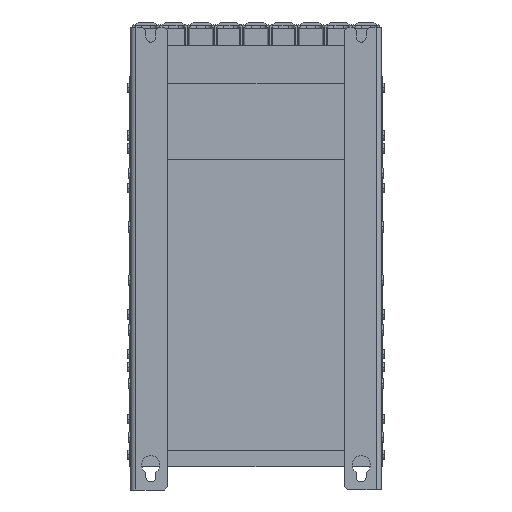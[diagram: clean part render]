
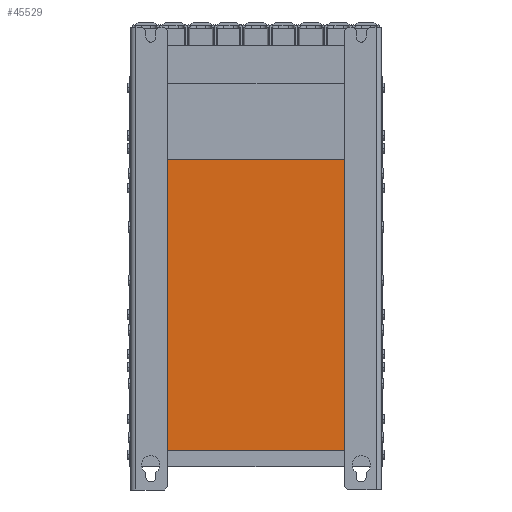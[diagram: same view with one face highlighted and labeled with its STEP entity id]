
A CAD part, front view. The second image highlights one B-rep face of the part: STEP entity #45529.
In plain terms, the highlighted planar face has unit normal (0, -1, 0).
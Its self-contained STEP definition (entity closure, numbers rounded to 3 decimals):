
#1677 = VERTEX_POINT ( 'NONE', #33840 ) ;
#1937 = EDGE_CURVE ( 'NONE', #1677, #12521, #11347, .T. ) ;
#3342 = CARTESIAN_POINT ( 'NONE',  ( 160.464, -126.5, 17. ) ) ;
#9501 = CARTESIAN_POINT ( 'NONE',  ( 160.464, -126.5, 397. ) ) ;
#11347 = LINE ( 'NONE', #19801, #14878 ) ;
#11592 = ORIENTED_EDGE ( 'NONE', *, *, #89215, .F. ) ;
#12521 = VERTEX_POINT ( 'NONE', #99148 ) ;
#14509 = DIRECTION ( 'NONE',  ( 0., -1., 0. ) ) ;
#14878 = VECTOR ( 'NONE', #91567, 1000. ) ;
#18179 = EDGE_CURVE ( 'NONE', #1677, #62303, #88816, .T. ) ;
#18578 = CARTESIAN_POINT ( 'NONE',  ( -164., -126.5, 17. ) ) ;
#19275 = ORIENTED_EDGE ( 'NONE', *, *, #22264, .F. ) ;
#19801 = CARTESIAN_POINT ( 'NONE',  ( -160.464, -126.5, -34.5 ) ) ;
#21372 = FACE_OUTER_BOUND ( 'NONE', #31904, .T. ) ;
#22264 = EDGE_CURVE ( 'NONE', #29885, #62303, #63713, .T. ) ;
#26972 = DIRECTION ( 'NONE',  ( 1., 0., 0. ) ) ;
#29885 = VERTEX_POINT ( 'NONE', #9501 ) ;
#31904 = EDGE_LOOP ( 'NONE', ( #62478, #19275, #11592, #69952 ) ) ;
#33840 = CARTESIAN_POINT ( 'NONE',  ( -160.464, -126.5, 17. ) ) ;
#34639 = VECTOR ( 'NONE', #72105, 1000. ) ;
#39271 = PLANE ( 'NONE',  #77024 ) ;
#41805 = DIRECTION ( 'NONE',  ( 1., 0., 0. ) ) ;
#45124 = DIRECTION ( 'NONE',  ( 0., 0., -1. ) ) ;
#45529 = ADVANCED_FACE ( 'NONE', ( #21372 ), #39271, .T. ) ;
#54612 = CARTESIAN_POINT ( 'NONE',  ( -144., -126.5, -403. ) ) ;
#62303 = VERTEX_POINT ( 'NONE', #3342 ) ;
#62478 = ORIENTED_EDGE ( 'NONE', *, *, #18179, .T. ) ;
#63713 = LINE ( 'NONE', #95873, #34639 ) ;
#69952 = ORIENTED_EDGE ( 'NONE', *, *, #1937, .F. ) ;
#72105 = DIRECTION ( 'NONE',  ( 0., 0., -1. ) ) ;
#74974 = CARTESIAN_POINT ( 'NONE',  ( -144., -126.5, 397. ) ) ;
#77024 = AXIS2_PLACEMENT_3D ( 'NONE', #54612, #14509, #45124 ) ;
#77292 = VECTOR ( 'NONE', #26972, 1000. ) ;
#81932 = VECTOR ( 'NONE', #41805, 1000. ) ;
#82877 = LINE ( 'NONE', #74974, #77292 ) ;
#88816 = LINE ( 'NONE', #18578, #81932 ) ;
#89215 = EDGE_CURVE ( 'NONE', #12521, #29885, #82877, .T. ) ;
#91567 = DIRECTION ( 'NONE',  ( 0., 0., 1. ) ) ;
#95873 = CARTESIAN_POINT ( 'NONE',  ( 160.464, -126.5, 570.5 ) ) ;
#99148 = CARTESIAN_POINT ( 'NONE',  ( -160.464, -126.5, 397. ) ) ;
